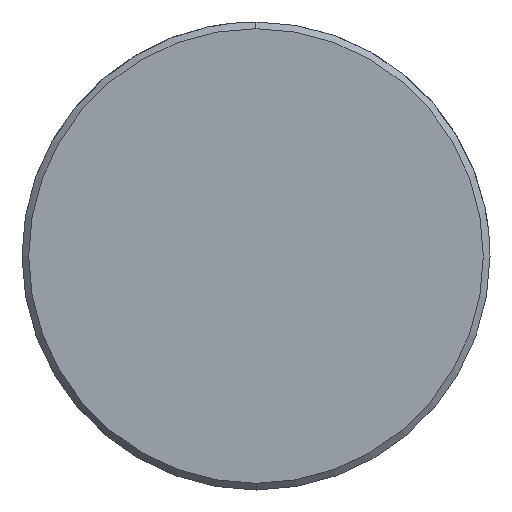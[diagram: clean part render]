
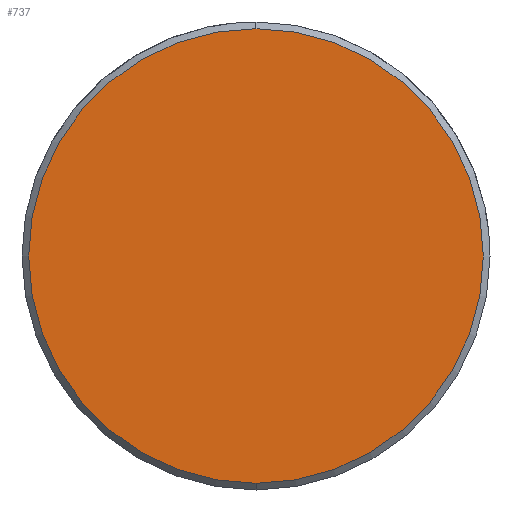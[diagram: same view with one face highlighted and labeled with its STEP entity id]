
A CAD part, left-side view. The second image highlights one B-rep face of the part: STEP entity #737.
In plain terms, the highlighted planar face has unit normal (-1, 0, 0).
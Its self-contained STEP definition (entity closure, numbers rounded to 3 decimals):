
#669=CARTESIAN_POINT('Vertex',(0.,0.,-10.2)) ;
#672=CARTESIAN_POINT('Axis2P3D Location',(0.,0.,0.)) ;
#676=CARTESIAN_POINT('Vertex',(0.,10.2,0.)) ;
#679=CARTESIAN_POINT('Axis2P3D Location',(0.,0.,0.)) ;
#683=CARTESIAN_POINT('Vertex',(0.,0.,10.2)) ;
#705=CARTESIAN_POINT('Axis2P3D Location',(0.,0.,0.)) ;
#709=CARTESIAN_POINT('Vertex',(0.,-10.2,0.)) ;
#712=CARTESIAN_POINT('Axis2P3D Location',(0.,0.,0.)) ;
#726=CARTESIAN_POINT('Axis2P3D Location',(0.,0.,0.)) ;
#673=DIRECTION('Axis2P3D Direction',(1.,0.,-0.)) ;
#680=DIRECTION('Axis2P3D Direction',(1.,0.,-0.)) ;
#706=DIRECTION('Axis2P3D Direction',(1.,0.,-0.)) ;
#713=DIRECTION('Axis2P3D Direction',(1.,0.,-0.)) ;
#727=DIRECTION('Axis2P3D Direction',(1.,0.,-0.)) ;
#728=DIRECTION('Axis2P3D XDirection',(-0.,0.,-1.)) ;
#674=AXIS2_PLACEMENT_3D('Circle Axis2P3D',#672,#673,$) ;
#681=AXIS2_PLACEMENT_3D('Circle Axis2P3D',#679,#680,$) ;
#707=AXIS2_PLACEMENT_3D('Circle Axis2P3D',#705,#706,$) ;
#714=AXIS2_PLACEMENT_3D('Circle Axis2P3D',#712,#713,$) ;
#729=AXIS2_PLACEMENT_3D('Plane Axis2P3D',#726,#727,#728) ;
#732=ORIENTED_EDGE('',*,*,#678,.F.) ;
#733=ORIENTED_EDGE('',*,*,#716,.F.) ;
#734=ORIENTED_EDGE('',*,*,#711,.F.) ;
#735=ORIENTED_EDGE('',*,*,#685,.F.) ;
#737=ADVANCED_FACE('549-18X140',(#736),#730,.F.) ;
#675=CIRCLE('generated circle',#674,10.2) ;
#682=CIRCLE('generated circle',#681,10.2) ;
#708=CIRCLE('generated circle',#707,10.2) ;
#715=CIRCLE('generated circle',#714,10.2) ;
#678=EDGE_CURVE('',#670,#677,#675,.T.) ;
#685=EDGE_CURVE('',#677,#684,#682,.T.) ;
#711=EDGE_CURVE('',#684,#710,#708,.T.) ;
#716=EDGE_CURVE('',#710,#670,#715,.T.) ;
#731=EDGE_LOOP('',(#732,#733,#734,#735)) ;
#736=FACE_OUTER_BOUND('',#731,.T.) ;
#730=PLANE('Plane',#729) ;
#670=VERTEX_POINT('',#669) ;
#677=VERTEX_POINT('',#676) ;
#684=VERTEX_POINT('',#683) ;
#710=VERTEX_POINT('',#709) ;
